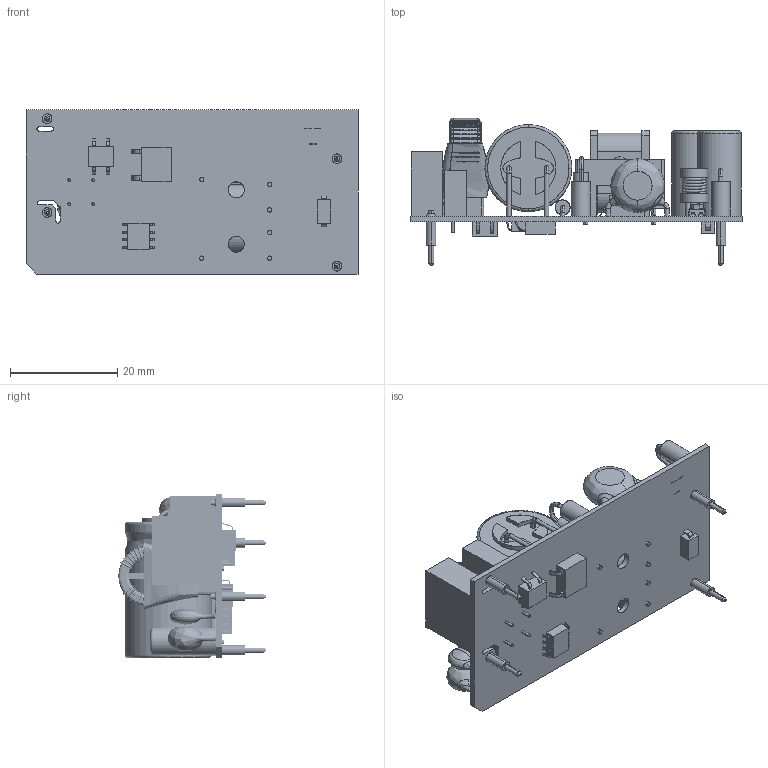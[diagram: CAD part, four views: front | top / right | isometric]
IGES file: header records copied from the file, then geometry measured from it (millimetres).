
Start section: SolidWorks IGES file using analytic representation for surfaces
Global section: file name: C:\Users\ksmith.XPNA\Desktop\ECL15-P\ECL15USXX-P.IGS; native system: SolidWorks 2016; preprocessor: SolidWorks 2016; author: ksmith; date: 170223.082606; units: inch
Bounding box: 62 x 27.5 x 30.7 mm (x, y, z)
Surface area: 14542.1 mm2 (no closed solid volume)
Topology: 0 solids, 0 shells, 1888 faces, 17213 edges, 17193 vertices
Faces by surface type: bspline 1152, revolution 736
